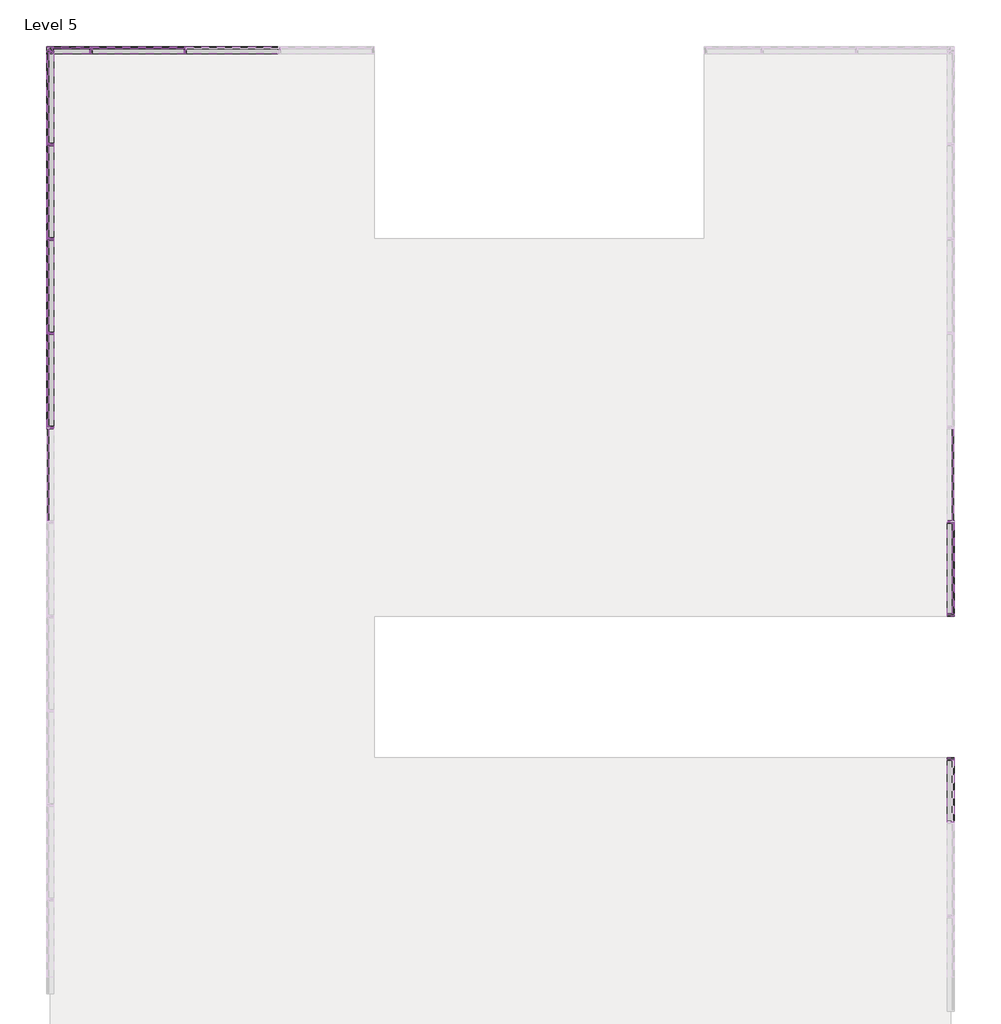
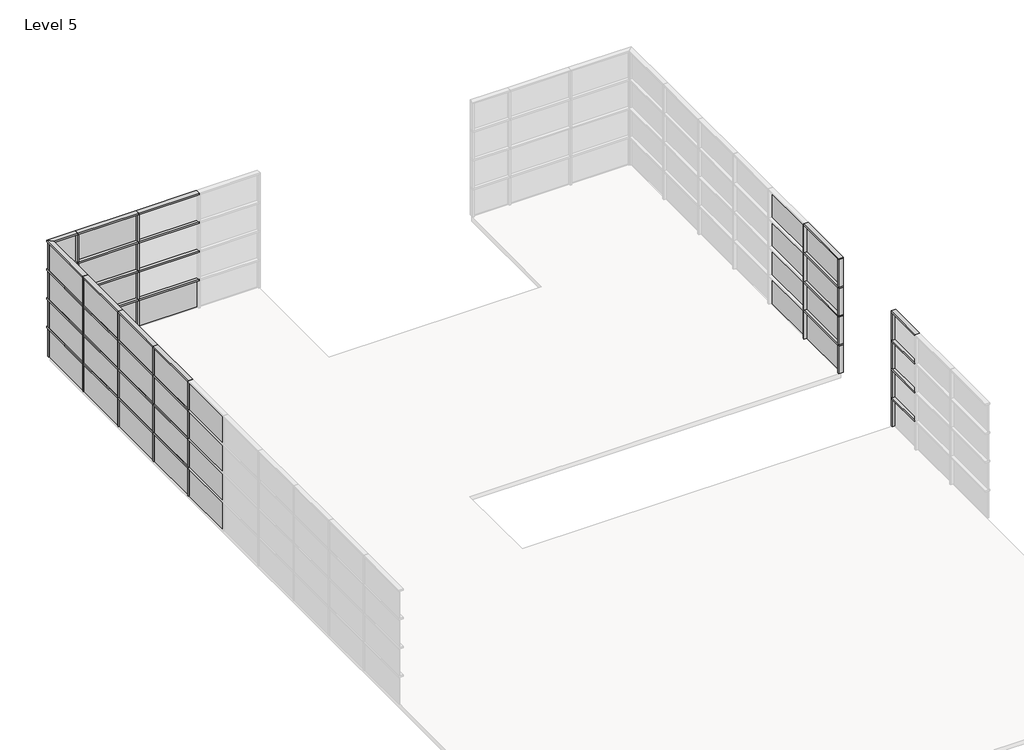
# One storey, part 4 of 5: 80 members, 37 plates.
"""IFC4 building model written with IfcOpenShell, lengths in millimetres."""

from ifc_helpers import new_model, si_unit, origin, place, context, project, spatial, transform, mapped, element, save
from components import rectangular_mullion_50_x_150mm_a053b0ca, rectangular_mullion_50_x_150mm_3a148f0f, rectangular_mullion_50_x_150mm_12a430f9, rectangular_mullion_50_x_150mm_c4a1d10e, rectangular_mullion_50_x_150mm_947845bb, rectangular_mullion_50_x_150mm_5fc4eb71, system_panel_glazed_751a585c, system_panel_glazed_08de6f5f, system_panel_glazed_3868a10e

model = new_model("IFC4")

# Units and contexts
model_context = context("Model", 3, world=origin())
ifc_project = project(units=[si_unit("LENGTHUNIT", "METRE", prefix="MILLI")], contexts=[model_context])

# Site, building, storey
site = spatial("IfcSite", under=ifc_project)
building = spatial("IfcBuilding", under=site)
storey = spatial("IfcBuildingStorey", under=building, Name="Level 5", Elevation=16000.0)

# Members
placement = place(None, origin())
rectangular_mullion_50_x_150mm_shape = rectangular_mullion_50_x_150mm_a053b0ca(model_context)
element("IfcMember", 1, ObjectType="Rectangular Mullion : 50 x 150mm", at=placement, inside=storey, context=model_context, shape_type="MappedRepresentation", body=[
    mapped(rectangular_mullion_50_x_150mm_shape, transform((-5587.173406, 6375.9839566, 16025.0), x_axis=(0.0, -1.0, 0.0), y_axis=(-1.0, 0.0, 0.0), z_axis=(0.0, 0.0, -1.0))),
])
element("IfcMember", 2, ObjectType="Rectangular Mullion : 50 x 150mm", at=placement, inside=storey, context=model_context, shape_type="MappedRepresentation", body=[
    mapped(rectangular_mullion_50_x_150mm_shape, transform((-5587.173406, 6375.9839566, 17025.0), x_axis=(0.0, -1.0, 0.0), y_axis=(-1.0, 0.0, 0.0), z_axis=(0.0, 0.0, -1.0))),
])
element("IfcMember", 3, ObjectType="Rectangular Mullion : 50 x 150mm", at=placement, inside=storey, context=model_context, shape_type="MappedRepresentation", body=[
    mapped(rectangular_mullion_50_x_150mm_shape, transform((-5587.173406, 6375.9839566, 18025.0), x_axis=(0.0, -1.0, 0.0), y_axis=(-1.0, 0.0, 0.0), z_axis=(0.0, 0.0, -1.0))),
])
element("IfcMember", 4, ObjectType="Rectangular Mullion : 50 x 150mm", at=placement, inside=storey, context=model_context, shape_type="MappedRepresentation", body=[
    mapped(rectangular_mullion_50_x_150mm_shape, transform((-5587.173406, 6375.9839566, 19025.0), x_axis=(0.0, -1.0, 0.0), y_axis=(-1.0, 0.0, 0.0), z_axis=(0.0, 0.0, -1.0))),
])
element("IfcMember", 5, ObjectType="Rectangular Mullion : 50 x 150mm", at=placement, inside=storey, context=model_context, shape_type="MappedRepresentation", body=[
    mapped(rectangular_mullion_50_x_150mm_shape, transform((-5587.173406, 4375.9839566, 16025.0), x_axis=(0.0, -1.0, 0.0), y_axis=(-1.0, 0.0, 0.0), z_axis=(0.0, 0.0, -1.0))),
])
element("IfcMember", 6, ObjectType="Rectangular Mullion : 50 x 150mm", at=placement, inside=storey, context=model_context, shape_type="MappedRepresentation", body=[
    mapped(rectangular_mullion_50_x_150mm_shape, transform((-5587.173406, 4375.9839566, 17025.0), x_axis=(0.0, -1.0, 0.0), y_axis=(-1.0, 0.0, 0.0), z_axis=(0.0, 0.0, -1.0))),
])
element("IfcMember", 7, ObjectType="Rectangular Mullion : 50 x 150mm", at=placement, inside=storey, context=model_context, shape_type="MappedRepresentation", body=[
    mapped(rectangular_mullion_50_x_150mm_shape, transform((-5587.173406, 4375.9839566, 18025.0), x_axis=(0.0, -1.0, 0.0), y_axis=(-1.0, 0.0, 0.0), z_axis=(0.0, 0.0, -1.0))),
])
element("IfcMember", 8, ObjectType="Rectangular Mullion : 50 x 150mm", at=placement, inside=storey, context=model_context, shape_type="MappedRepresentation", body=[
    mapped(rectangular_mullion_50_x_150mm_shape, transform((-5587.173406, 4375.9839566, 19025.0), x_axis=(0.0, -1.0, 0.0), y_axis=(-1.0, 0.0, 0.0), z_axis=(0.0, 0.0, -1.0))),
])
element("IfcMember", 9, ObjectType="Rectangular Mullion : 50 x 150mm", at=placement, inside=storey, context=model_context, shape_type="MappedRepresentation", body=[
    mapped(rectangular_mullion_50_x_150mm_shape, transform((-5587.173406, 2375.9839566, 16025.0), x_axis=(0.0, -1.0, 0.0), y_axis=(-1.0, 0.0, 0.0), z_axis=(0.0, 0.0, -1.0))),
])
element("IfcMember", 10, ObjectType="Rectangular Mullion : 50 x 150mm", at=placement, inside=storey, context=model_context, shape_type="MappedRepresentation", body=[
    mapped(rectangular_mullion_50_x_150mm_shape, transform((-5587.173406, 2375.9839566, 17025.0), x_axis=(0.0, -1.0, 0.0), y_axis=(-1.0, 0.0, 0.0), z_axis=(0.0, 0.0, -1.0))),
])
element("IfcMember", 11, ObjectType="Rectangular Mullion : 50 x 150mm", at=placement, inside=storey, context=model_context, shape_type="MappedRepresentation", body=[
    mapped(rectangular_mullion_50_x_150mm_shape, transform((-5587.173406, 2375.9839566, 18025.0), x_axis=(0.0, -1.0, 0.0), y_axis=(-1.0, 0.0, 0.0), z_axis=(0.0, 0.0, -1.0))),
])
element("IfcMember", 12, ObjectType="Rectangular Mullion : 50 x 150mm", at=placement, inside=storey, context=model_context, shape_type="MappedRepresentation", body=[
    mapped(rectangular_mullion_50_x_150mm_shape, transform((-5587.173406, 2375.9839566, 19025.0), x_axis=(0.0, -1.0, 0.0), y_axis=(-1.0, 0.0, 0.0), z_axis=(0.0, 0.0, -1.0))),
])
element("IfcMember", 13, ObjectType="Rectangular Mullion : 50 x 150mm", at=placement, inside=storey, context=model_context, shape_type="MappedRepresentation", body=[
    mapped(rectangular_mullion_50_x_150mm_shape, transform((-5587.173406, 375.9839566, 16025.0), x_axis=(0.0, -1.0, 0.0), y_axis=(-1.0, 0.0, 0.0), z_axis=(0.0, 0.0, -1.0))),
])
element("IfcMember", 14, ObjectType="Rectangular Mullion : 50 x 150mm", at=placement, inside=storey, context=model_context, shape_type="MappedRepresentation", body=[
    mapped(rectangular_mullion_50_x_150mm_shape, transform((-5587.173406, 375.9839566, 17025.0), x_axis=(0.0, -1.0, 0.0), y_axis=(-1.0, 0.0, 0.0), z_axis=(0.0, 0.0, -1.0))),
])
element("IfcMember", 15, ObjectType="Rectangular Mullion : 50 x 150mm", at=placement, inside=storey, context=model_context, shape_type="MappedRepresentation", body=[
    mapped(rectangular_mullion_50_x_150mm_shape, transform((-5587.173406, 375.9839566, 18025.0), x_axis=(0.0, -1.0, 0.0), y_axis=(-1.0, 0.0, 0.0), z_axis=(0.0, 0.0, -1.0))),
])
element("IfcMember", 16, ObjectType="Rectangular Mullion : 50 x 150mm", at=placement, inside=storey, context=model_context, shape_type="MappedRepresentation", body=[
    mapped(rectangular_mullion_50_x_150mm_shape, transform((-5587.173406, 375.9839566, 19025.0), x_axis=(0.0, -1.0, 0.0), y_axis=(-1.0, 0.0, 0.0), z_axis=(0.0, 0.0, -1.0))),
])
element("IfcMember", 17, ObjectType="Rectangular Mullion : 50 x 150mm", at=placement, inside=storey, context=model_context, shape_type="MappedRepresentation", body=[
    mapped(rectangular_mullion_50_x_150mm_shape, transform((-4721.580781, 8375.9839566, 16025.0), x_axis=(-1.0, 0.0, 0.0), y_axis=(0.0, 1.0, 0.0), z_axis=(0.0, 0.0, -0.9999999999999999))),
])
element("IfcMember", 18, ObjectType="Rectangular Mullion : 50 x 150mm", at=placement, inside=storey, context=model_context, shape_type="MappedRepresentation", body=[
    mapped(rectangular_mullion_50_x_150mm_shape, transform((-4721.580781, 8375.9839566, 17025.0), x_axis=(-1.0, 0.0, 0.0), y_axis=(0.0, 1.0, 0.0), z_axis=(0.0, 0.0, -1.0))),
])
element("IfcMember", 19, ObjectType="Rectangular Mullion : 50 x 150mm", at=placement, inside=storey, context=model_context, shape_type="MappedRepresentation", body=[
    mapped(rectangular_mullion_50_x_150mm_shape, transform((-4721.580781, 8375.9839566, 18025.0), x_axis=(-1.0, 0.0, 0.0), y_axis=(0.0, 1.0, 0.0), z_axis=(0.0, 0.0, -1.0))),
])
element("IfcMember", 20, ObjectType="Rectangular Mullion : 50 x 150mm", at=placement, inside=storey, context=model_context, shape_type="MappedRepresentation", body=[
    mapped(rectangular_mullion_50_x_150mm_shape, transform((-4721.580781, 8375.9839566, 19025.0), x_axis=(-1.0, 0.0, 0.0), y_axis=(0.0, 1.0, 0.0), z_axis=(0.0, 0.0, -1.0))),
])
element("IfcMember", 21, ObjectType="Rectangular Mullion : 50 x 150mm", at=placement, inside=storey, context=model_context, shape_type="MappedRepresentation", body=[
    mapped(rectangular_mullion_50_x_150mm_shape, transform((-2721.580781, 8375.9839566, 16025.0), x_axis=(-1.0, 0.0, 0.0), y_axis=(0.0, 1.0, 0.0), z_axis=(0.0, 0.0, -1.0))),
])
element("IfcMember", 22, ObjectType="Rectangular Mullion : 50 x 150mm", at=placement, inside=storey, context=model_context, shape_type="MappedRepresentation", body=[
    mapped(rectangular_mullion_50_x_150mm_shape, transform((-2721.580781, 8375.9839566, 17025.0), x_axis=(-1.0, 0.0, 0.0), y_axis=(0.0, 1.0, 0.0), z_axis=(0.0, 0.0, -1.0))),
])
element("IfcMember", 23, ObjectType="Rectangular Mullion : 50 x 150mm", at=placement, inside=storey, context=model_context, shape_type="MappedRepresentation", body=[
    mapped(rectangular_mullion_50_x_150mm_shape, transform((-2721.580781, 8375.9839566, 18025.0), x_axis=(-1.0, 0.0, 0.0), y_axis=(0.0, 1.0, 0.0), z_axis=(0.0, 0.0, -1.0))),
])
element("IfcMember", 24, ObjectType="Rectangular Mullion : 50 x 150mm", at=placement, inside=storey, context=model_context, shape_type="MappedRepresentation", body=[
    mapped(rectangular_mullion_50_x_150mm_shape, transform((-2721.580781, 8375.9839566, 19025.0), x_axis=(-1.0, 0.0, 0.0), y_axis=(0.0, 1.0, 0.0), z_axis=(0.0, 0.0, -1.0))),
])
element("IfcMember", 25, ObjectType="Rectangular Mullion : 50 x 150mm", at=placement, inside=storey, context=model_context, shape_type="MappedRepresentation", body=[
    mapped(rectangular_mullion_50_x_150mm_shape, transform((13503.2660975, -1624.0160434, 16025.0), x_axis=(0.0, 1.0, 0.0), y_axis=(1.0, 0.0, 0.0), z_axis=(0.0, 0.0, -1.0))),
])
element("IfcMember", 26, ObjectType="Rectangular Mullion : 50 x 150mm", at=placement, inside=storey, context=model_context, shape_type="MappedRepresentation", body=[
    mapped(rectangular_mullion_50_x_150mm_shape, transform((13503.2660975, -1624.0160434, 17025.0), x_axis=(0.0, 1.0, 0.0), y_axis=(1.0, 0.0, 0.0), z_axis=(0.0, 0.0, -1.0))),
])
element("IfcMember", 27, ObjectType="Rectangular Mullion : 50 x 150mm", at=placement, inside=storey, context=model_context, shape_type="MappedRepresentation", body=[
    mapped(rectangular_mullion_50_x_150mm_shape, transform((13503.2660975, -1624.0160434, 18025.0), x_axis=(0.0, 1.0, 0.0), y_axis=(1.0, 0.0, 0.0), z_axis=(0.0, 0.0, -1.0))),
])
element("IfcMember", 28, ObjectType="Rectangular Mullion : 50 x 150mm", at=placement, inside=storey, context=model_context, shape_type="MappedRepresentation", body=[
    mapped(rectangular_mullion_50_x_150mm_shape, transform((13503.2660975, -1624.0160434, 19025.0), x_axis=(0.0, 1.0, 0.0), y_axis=(1.0, 0.0, 0.0), z_axis=(0.0, 0.0, -1.0))),
])
rectangular_mullion_50_x_150mm_2_shape = rectangular_mullion_50_x_150mm_3a148f0f(model_context)
element("IfcMember", 29, ObjectType="Rectangular Mullion : 50 x 150mm", at=placement, inside=storey, context=model_context, shape_type="MappedRepresentation", body=[
    mapped(rectangular_mullion_50_x_150mm_2_shape, transform((13503.2660975, -1624.0160434, 17000.0), x_axis=(0.0, 0.0, 1.0), y_axis=(1.0, 0.0, 0.0), z_axis=(0.0, 0.9999999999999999, 0.0))),
])
element("IfcMember", 30, ObjectType="Rectangular Mullion : 50 x 150mm", at=placement, inside=storey, context=model_context, shape_type="MappedRepresentation", body=[
    mapped(rectangular_mullion_50_x_150mm_2_shape, transform((13503.2660975, -1624.0160434, 18000.0), x_axis=(0.0, 0.0, 1.0), y_axis=(1.0, 0.0, 0.0), z_axis=(0.0, 0.9999999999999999, 0.0))),
])
element("IfcMember", 31, ObjectType="Rectangular Mullion : 50 x 150mm", at=placement, inside=storey, context=model_context, shape_type="MappedRepresentation", body=[
    mapped(rectangular_mullion_50_x_150mm_2_shape, transform((13503.2660975, -1624.0160434, 19000.0), x_axis=(0.0, 0.0, 1.0), y_axis=(1.0, 0.0, 0.0), z_axis=(0.0, 0.9999999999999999, 0.0))),
])
element("IfcMember", 32, ObjectType="Rectangular Mullion : 50 x 150mm", at=placement, inside=storey, context=model_context, shape_type="MappedRepresentation", body=[
    mapped(rectangular_mullion_50_x_150mm_2_shape, transform((13503.2660975, -1624.0160434, 20000.0), x_axis=(0.0, 0.0, 1.0), y_axis=(1.0, 0.0, 0.0), z_axis=(0.0, 0.9999999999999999, 0.0))),
])
element("IfcMember", 33, ObjectType="Rectangular Mullion : 50 x 150mm", at=placement, inside=storey, context=model_context, shape_type="MappedRepresentation", body=[
    mapped(rectangular_mullion_50_x_150mm_2_shape, transform((-5587.173406, 4375.9839566, 17000.0), x_axis=(0.0, 0.0, 1.0), y_axis=(-1.0, 0.0, 0.0), z_axis=(0.0, -1.0, 0.0))),
])
element("IfcMember", 34, ObjectType="Rectangular Mullion : 50 x 150mm", at=placement, inside=storey, context=model_context, shape_type="MappedRepresentation", body=[
    mapped(rectangular_mullion_50_x_150mm_2_shape, transform((-5587.173406, 2375.9839566, 17000.0), x_axis=(0.0, 0.0, 1.0), y_axis=(-1.0, 0.0, 0.0), z_axis=(0.0, -1.0, 0.0))),
])
element("IfcMember", 35, ObjectType="Rectangular Mullion : 50 x 150mm", at=placement, inside=storey, context=model_context, shape_type="MappedRepresentation", body=[
    mapped(rectangular_mullion_50_x_150mm_2_shape, transform((-5587.173406, 375.9839566, 17000.0), x_axis=(0.0, 0.0, 1.0), y_axis=(-1.0, 0.0, 0.0), z_axis=(0.0, -1.0, 0.0))),
])
element("IfcMember", 36, ObjectType="Rectangular Mullion : 50 x 150mm", at=placement, inside=storey, context=model_context, shape_type="MappedRepresentation", body=[
    mapped(rectangular_mullion_50_x_150mm_2_shape, transform((-5587.173406, 4375.9839566, 18000.0), x_axis=(0.0, 0.0, 1.0), y_axis=(-1.0, 0.0, 0.0), z_axis=(0.0, -1.0, 0.0))),
])
element("IfcMember", 37, ObjectType="Rectangular Mullion : 50 x 150mm", at=placement, inside=storey, context=model_context, shape_type="MappedRepresentation", body=[
    mapped(rectangular_mullion_50_x_150mm_2_shape, transform((-5587.173406, 2375.9839566, 18000.0), x_axis=(0.0, 0.0, 1.0), y_axis=(-1.0, 0.0, 0.0), z_axis=(0.0, -1.0, 0.0))),
])
element("IfcMember", 38, ObjectType="Rectangular Mullion : 50 x 150mm", at=placement, inside=storey, context=model_context, shape_type="MappedRepresentation", body=[
    mapped(rectangular_mullion_50_x_150mm_2_shape, transform((-5587.173406, 375.9839566, 18000.0), x_axis=(0.0, 0.0, 1.0), y_axis=(-1.0, 0.0, 0.0), z_axis=(0.0, -1.0, 0.0))),
])
element("IfcMember", 39, ObjectType="Rectangular Mullion : 50 x 150mm", at=placement, inside=storey, context=model_context, shape_type="MappedRepresentation", body=[
    mapped(rectangular_mullion_50_x_150mm_2_shape, transform((-5587.173406, 4375.9839566, 19000.0), x_axis=(0.0, 0.0, 1.0), y_axis=(-1.0, 0.0, 0.0), z_axis=(0.0, -1.0, 0.0))),
])
element("IfcMember", 40, ObjectType="Rectangular Mullion : 50 x 150mm", at=placement, inside=storey, context=model_context, shape_type="MappedRepresentation", body=[
    mapped(rectangular_mullion_50_x_150mm_2_shape, transform((-5587.173406, 2375.9839566, 19000.0), x_axis=(0.0, 0.0, 1.0), y_axis=(-1.0, 0.0, 0.0), z_axis=(0.0, -1.0, 0.0))),
])
element("IfcMember", 41, ObjectType="Rectangular Mullion : 50 x 150mm", at=placement, inside=storey, context=model_context, shape_type="MappedRepresentation", body=[
    mapped(rectangular_mullion_50_x_150mm_2_shape, transform((-5587.173406, 375.9839566, 19000.0), x_axis=(0.0, 0.0, 1.0), y_axis=(-1.0, 0.0, 0.0), z_axis=(0.0, -1.0, 0.0))),
])
element("IfcMember", 42, ObjectType="Rectangular Mullion : 50 x 150mm", at=placement, inside=storey, context=model_context, shape_type="MappedRepresentation", body=[
    mapped(rectangular_mullion_50_x_150mm_2_shape, transform((-5587.173406, 4375.9839566, 20000.0), x_axis=(0.0, 0.0, 1.0), y_axis=(-1.0, 0.0, 0.0), z_axis=(0.0, -1.0, 0.0))),
])
element("IfcMember", 43, ObjectType="Rectangular Mullion : 50 x 150mm", at=placement, inside=storey, context=model_context, shape_type="MappedRepresentation", body=[
    mapped(rectangular_mullion_50_x_150mm_2_shape, transform((-5587.173406, 2375.9839566, 20000.0), x_axis=(0.0, 0.0, 1.0), y_axis=(-1.0, 0.0, 0.0), z_axis=(0.0, -1.0, 0.0))),
])
element("IfcMember", 44, ObjectType="Rectangular Mullion : 50 x 150mm", at=placement, inside=storey, context=model_context, shape_type="MappedRepresentation", body=[
    mapped(rectangular_mullion_50_x_150mm_2_shape, transform((-5587.173406, 375.9839566, 20000.0), x_axis=(0.0, 0.0, 1.0), y_axis=(-1.0, 0.0, 0.0), z_axis=(0.0, -1.0, 0.0))),
])
element("IfcMember", 45, ObjectType="Rectangular Mullion : 50 x 150mm", at=placement, inside=storey, context=model_context, shape_type="MappedRepresentation", body=[
    mapped(rectangular_mullion_50_x_150mm_2_shape, transform((-2721.580781, 8375.9839566, 17000.0), x_axis=(0.0, 0.0, 1.0), y_axis=(0.0, 1.0, 0.0), z_axis=(-1.0, 0.0, 0.0))),
])
element("IfcMember", 46, ObjectType="Rectangular Mullion : 50 x 150mm", at=placement, inside=storey, context=model_context, shape_type="MappedRepresentation", body=[
    mapped(rectangular_mullion_50_x_150mm_2_shape, transform((-4721.580781, 8375.9839566, 17000.0), x_axis=(0.0, 0.0, 1.0), y_axis=(0.0, 1.0, 0.0), z_axis=(-1.0, 0.0, 0.0))),
])
element("IfcMember", 47, ObjectType="Rectangular Mullion : 50 x 150mm", at=placement, inside=storey, context=model_context, shape_type="MappedRepresentation", body=[
    mapped(rectangular_mullion_50_x_150mm_2_shape, transform((-2721.580781, 8375.9839566, 18000.0), x_axis=(0.0, 0.0, 1.0), y_axis=(0.0, 1.0, 0.0), z_axis=(-1.0, 0.0, 0.0))),
])
element("IfcMember", 48, ObjectType="Rectangular Mullion : 50 x 150mm", at=placement, inside=storey, context=model_context, shape_type="MappedRepresentation", body=[
    mapped(rectangular_mullion_50_x_150mm_2_shape, transform((-4721.580781, 8375.9839566, 18000.0), x_axis=(0.0, 0.0, 1.0), y_axis=(0.0, 1.0, 0.0), z_axis=(-1.0, 0.0, 0.0))),
])
element("IfcMember", 49, ObjectType="Rectangular Mullion : 50 x 150mm", at=placement, inside=storey, context=model_context, shape_type="MappedRepresentation", body=[
    mapped(rectangular_mullion_50_x_150mm_2_shape, transform((-2721.580781, 8375.9839566, 19000.0), x_axis=(0.0, 0.0, 1.0), y_axis=(0.0, 1.0, 0.0), z_axis=(-1.0, 0.0, 0.0))),
])
element("IfcMember", 50, ObjectType="Rectangular Mullion : 50 x 150mm", at=placement, inside=storey, context=model_context, shape_type="MappedRepresentation", body=[
    mapped(rectangular_mullion_50_x_150mm_2_shape, transform((-4721.580781, 8375.9839566, 19000.0), x_axis=(0.0, 0.0, 1.0), y_axis=(0.0, 1.0, 0.0), z_axis=(-1.0, 0.0, 0.0))),
])
element("IfcMember", 51, ObjectType="Rectangular Mullion : 50 x 150mm", at=placement, inside=storey, context=model_context, shape_type="MappedRepresentation", body=[
    mapped(rectangular_mullion_50_x_150mm_2_shape, transform((-2721.580781, 8375.9839566, 20000.0), x_axis=(0.0, 0.0, 1.0), y_axis=(0.0, 1.0, 0.0), z_axis=(-1.0, 0.0, 0.0))),
])
element("IfcMember", 52, ObjectType="Rectangular Mullion : 50 x 150mm", at=placement, inside=storey, context=model_context, shape_type="MappedRepresentation", body=[
    mapped(rectangular_mullion_50_x_150mm_2_shape, transform((-4721.580781, 8375.9839566, 20000.0), x_axis=(0.0, 0.0, 1.0), y_axis=(0.0, 1.0, 0.0), z_axis=(-1.0, 0.0, 0.0))),
])
rectangular_mullion_50_x_150mm_3_shape = rectangular_mullion_50_x_150mm_12a430f9(model_context)
element("IfcMember", 53, ObjectType="Rectangular Mullion : 50 x 150mm", at=placement, inside=storey, context=model_context, shape_type="MappedRepresentation", body=[
    mapped(rectangular_mullion_50_x_150mm_3_shape, transform((-5587.173406, 8375.9839566, 16975.0), x_axis=(0.0, 1.0, 0.0), y_axis=(-1.0, 0.0, 0.0), z_axis=(0.0, 0.0, 1.0))),
])
element("IfcMember", 54, ObjectType="Rectangular Mullion : 50 x 150mm", at=placement, inside=storey, context=model_context, shape_type="MappedRepresentation", body=[
    mapped(rectangular_mullion_50_x_150mm_3_shape, transform((-5587.173406, 8375.9839566, 17975.0), x_axis=(0.0, 1.0, 0.0), y_axis=(-1.0, 0.0, 0.0), z_axis=(0.0, 0.0, 1.0))),
])
element("IfcMember", 55, ObjectType="Rectangular Mullion : 50 x 150mm", at=placement, inside=storey, context=model_context, shape_type="MappedRepresentation", body=[
    mapped(rectangular_mullion_50_x_150mm_3_shape, transform((-5587.173406, 8375.9839566, 18975.0), x_axis=(0.0, 1.0, 0.0), y_axis=(-1.0, 0.0, 0.0), z_axis=(0.0, 0.0, 1.0))),
])
element("IfcMember", 56, ObjectType="Rectangular Mullion : 50 x 150mm", at=placement, inside=storey, context=model_context, shape_type="MappedRepresentation", body=[
    mapped(rectangular_mullion_50_x_150mm_3_shape, transform((-5587.173406, 8375.9839566, 19975.0), x_axis=(0.0, 1.0, 0.0), y_axis=(-1.0, 0.0, 0.0), z_axis=(0.0, 0.0, 1.0))),
])
element("IfcMember", 57, ObjectType="Rectangular Mullion : 50 x 150mm", at=placement, inside=storey, context=model_context, shape_type="MappedRepresentation", body=[
    mapped(rectangular_mullion_50_x_150mm_3_shape, transform((13503.2660975, -3624.0160434, 16975.0), x_axis=(0.0, -1.0, 0.0), y_axis=(1.0, 0.0, 0.0), z_axis=(0.0, 0.0, 1.0))),
])
element("IfcMember", 58, ObjectType="Rectangular Mullion : 50 x 150mm", at=placement, inside=storey, context=model_context, shape_type="MappedRepresentation", body=[
    mapped(rectangular_mullion_50_x_150mm_3_shape, transform((13503.2660975, -3624.0160434, 17975.0), x_axis=(0.0, -1.0, 0.0), y_axis=(1.0, 0.0, 0.0), z_axis=(0.0, 0.0, 1.0))),
])
element("IfcMember", 59, ObjectType="Rectangular Mullion : 50 x 150mm", at=placement, inside=storey, context=model_context, shape_type="MappedRepresentation", body=[
    mapped(rectangular_mullion_50_x_150mm_3_shape, transform((13503.2660975, -3624.0160434, 18975.0), x_axis=(0.0, -1.0, 0.0), y_axis=(1.0, 0.0, 0.0), z_axis=(0.0, 0.0, 1.0))),
])
element("IfcMember", 60, ObjectType="Rectangular Mullion : 50 x 150mm", at=placement, inside=storey, context=model_context, shape_type="MappedRepresentation", body=[
    mapped(rectangular_mullion_50_x_150mm_3_shape, transform((13503.2660975, -3624.0160434, 19975.0), x_axis=(0.0, -1.0, 0.0), y_axis=(1.0, 0.0, 0.0), z_axis=(0.0, 0.0, 1.0))),
])
element("IfcMember", 61, ObjectType="Rectangular Mullion : 50 x 150mm", at=placement, inside=storey, context=model_context, shape_type="MappedRepresentation", body=[
    mapped(rectangular_mullion_50_x_150mm_3_shape, transform((-5587.173406, 8375.9839566, 16025.0), x_axis=(-1.0, 0.0, 0.0), y_axis=(0.0, 1.0, 0.0), z_axis=(0.0, 0.0, -1.0))),
])
element("IfcMember", 62, ObjectType="Rectangular Mullion : 50 x 150mm", at=placement, inside=storey, context=model_context, shape_type="MappedRepresentation", body=[
    mapped(rectangular_mullion_50_x_150mm_3_shape, transform((-5587.173406, 8375.9839566, 17025.0), x_axis=(-1.0, 0.0, 0.0), y_axis=(0.0, 1.0, 0.0), z_axis=(0.0, 0.0, -1.0))),
])
element("IfcMember", 63, ObjectType="Rectangular Mullion : 50 x 150mm", at=placement, inside=storey, context=model_context, shape_type="MappedRepresentation", body=[
    mapped(rectangular_mullion_50_x_150mm_3_shape, transform((-5587.173406, 8375.9839566, 18025.0), x_axis=(-1.0, 0.0, 0.0), y_axis=(0.0, 1.0, 0.0), z_axis=(0.0, 0.0, -1.0))),
])
element("IfcMember", 64, ObjectType="Rectangular Mullion : 50 x 150mm", at=placement, inside=storey, context=model_context, shape_type="MappedRepresentation", body=[
    mapped(rectangular_mullion_50_x_150mm_3_shape, transform((-5587.173406, 8375.9839566, 19025.0), x_axis=(-1.0, 0.0, 0.0), y_axis=(0.0, 1.0, 0.0), z_axis=(0.0, 0.0, -1.0))),
])
element("IfcMember", 65, ObjectType="Rectangular Mullion : 50 x 150mm", at=placement, inside=storey, context=model_context, shape_type="MappedRepresentation", body=[
    mapped(rectangular_mullion_50_x_150mm_3_shape, transform((13503.2660975, -6624.0160434, 16025.0), x_axis=(0.0, 1.0, 0.0), y_axis=(1.0, 0.0, 0.0), z_axis=(0.0, 0.0, -1.0))),
])
element("IfcMember", 66, ObjectType="Rectangular Mullion : 50 x 150mm", at=placement, inside=storey, context=model_context, shape_type="MappedRepresentation", body=[
    mapped(rectangular_mullion_50_x_150mm_3_shape, transform((13503.2660975, -6624.0160434, 17025.0), x_axis=(0.0, 1.0, 0.0), y_axis=(1.0, 0.0, 0.0), z_axis=(0.0, 0.0, -1.0))),
])
element("IfcMember", 67, ObjectType="Rectangular Mullion : 50 x 150mm", at=placement, inside=storey, context=model_context, shape_type="MappedRepresentation", body=[
    mapped(rectangular_mullion_50_x_150mm_3_shape, transform((13503.2660975, -6624.0160434, 18025.0), x_axis=(0.0, 1.0, 0.0), y_axis=(1.0, 0.0, 0.0), z_axis=(0.0, 0.0, -1.0))),
])
element("IfcMember", 68, ObjectType="Rectangular Mullion : 50 x 150mm", at=placement, inside=storey, context=model_context, shape_type="MappedRepresentation", body=[
    mapped(rectangular_mullion_50_x_150mm_3_shape, transform((13503.2660975, -6624.0160434, 19025.0), x_axis=(0.0, 1.0, 0.0), y_axis=(1.0, 0.0, 0.0), z_axis=(0.0, 0.0, -1.0))),
])
rectangular_mullion_50_x_150mm_4_shape = rectangular_mullion_50_x_150mm_c4a1d10e(model_context)
element("IfcMember", 69, ObjectType="Rectangular Mullion : 50 x 150mm", at=placement, inside=storey, context=model_context, shape_type="MappedRepresentation", body=[
    mapped(rectangular_mullion_50_x_150mm_4_shape, transform((-5587.173406, 8375.9839566, 17000.0), x_axis=(0.0, 0.0, 1.0), y_axis=(0.0, 1.0, 0.0), z_axis=(-1.0, 0.0, 0.0))),
])
element("IfcMember", 70, ObjectType="Rectangular Mullion : 50 x 150mm", at=placement, inside=storey, context=model_context, shape_type="MappedRepresentation", body=[
    mapped(rectangular_mullion_50_x_150mm_4_shape, transform((-5587.173406, 8375.9839566, 18000.0), x_axis=(0.0, 0.0, 1.0), y_axis=(0.0, 1.0, 0.0), z_axis=(-1.0, 0.0, 0.0))),
])
element("IfcMember", 71, ObjectType="Rectangular Mullion : 50 x 150mm", at=placement, inside=storey, context=model_context, shape_type="MappedRepresentation", body=[
    mapped(rectangular_mullion_50_x_150mm_4_shape, transform((-5587.173406, 8375.9839566, 19000.0), x_axis=(0.0, 0.0, 1.0), y_axis=(0.0, 1.0, 0.0), z_axis=(-1.0, 0.0, 0.0))),
])
element("IfcMember", 72, ObjectType="Rectangular Mullion : 50 x 150mm", at=placement, inside=storey, context=model_context, shape_type="MappedRepresentation", body=[
    mapped(rectangular_mullion_50_x_150mm_4_shape, transform((-5587.173406, 8375.9839566, 20000.0), x_axis=(0.0, 0.0, 1.0), y_axis=(0.0, 1.0, 0.0), z_axis=(-1.0, 0.0, 0.0))),
])
rectangular_mullion_50_x_150mm_5_shape = rectangular_mullion_50_x_150mm_947845bb(model_context)
element("IfcMember", 73, ObjectType="Rectangular Mullion : 50 x 150mm", at=placement, inside=storey, context=model_context, shape_type="MappedRepresentation", body=[
    mapped(rectangular_mullion_50_x_150mm_5_shape, transform((-5587.173406, 6375.9839566, 17000.0), x_axis=(0.0, 0.0, 1.0), y_axis=(-1.0, 0.0, 0.0), z_axis=(0.0, -1.0, 0.0))),
])
element("IfcMember", 74, ObjectType="Rectangular Mullion : 50 x 150mm", at=placement, inside=storey, context=model_context, shape_type="MappedRepresentation", body=[
    mapped(rectangular_mullion_50_x_150mm_5_shape, transform((-5587.173406, 6375.9839566, 18000.0), x_axis=(0.0, 0.0, 1.0), y_axis=(-1.0, 0.0, 0.0), z_axis=(0.0, -1.0, 0.0))),
])
element("IfcMember", 75, ObjectType="Rectangular Mullion : 50 x 150mm", at=placement, inside=storey, context=model_context, shape_type="MappedRepresentation", body=[
    mapped(rectangular_mullion_50_x_150mm_5_shape, transform((-5587.173406, 6375.9839566, 19000.0), x_axis=(0.0, 0.0, 1.0), y_axis=(-1.0, 0.0, 0.0), z_axis=(0.0, -1.0, 0.0))),
])
element("IfcMember", 76, ObjectType="Rectangular Mullion : 50 x 150mm", at=placement, inside=storey, context=model_context, shape_type="MappedRepresentation", body=[
    mapped(rectangular_mullion_50_x_150mm_5_shape, transform((-5587.173406, 6375.9839566, 20000.0), x_axis=(0.0, 0.0, 1.0), y_axis=(-1.0, 0.0, 0.0), z_axis=(0.0, -1.0, 0.0))),
])
rectangular_mullion_50_x_150mm_6_shape = rectangular_mullion_50_x_150mm_5fc4eb71(model_context)
element("IfcMember", 77, ObjectType="Rectangular Mullion : 50 x 150mm", at=placement, inside=storey, context=model_context, shape_type="MappedRepresentation", body=[
    mapped(rectangular_mullion_50_x_150mm_6_shape, transform((13503.2660975, -6624.0160434, 17000.0), x_axis=(0.0, 0.0, 1.0), y_axis=(1.0, 0.0, 0.0), z_axis=(0.0, 1.0, 0.0))),
])
element("IfcMember", 78, ObjectType="Rectangular Mullion : 50 x 150mm", at=placement, inside=storey, context=model_context, shape_type="MappedRepresentation", body=[
    mapped(rectangular_mullion_50_x_150mm_6_shape, transform((13503.2660975, -6624.0160434, 18000.0), x_axis=(0.0, 0.0, 1.0), y_axis=(1.0, 0.0, 0.0), z_axis=(0.0, 1.0, 0.0))),
])
element("IfcMember", 79, ObjectType="Rectangular Mullion : 50 x 150mm", at=placement, inside=storey, context=model_context, shape_type="MappedRepresentation", body=[
    mapped(rectangular_mullion_50_x_150mm_6_shape, transform((13503.2660975, -6624.0160434, 19000.0), x_axis=(0.0, 0.0, 1.0), y_axis=(1.0, 0.0, 0.0), z_axis=(0.0, 1.0, 0.0))),
])
element("IfcMember", 80, ObjectType="Rectangular Mullion : 50 x 150mm", at=placement, inside=storey, context=model_context, shape_type="MappedRepresentation", body=[
    mapped(rectangular_mullion_50_x_150mm_6_shape, transform((13503.2660975, -6624.0160434, 20000.0), x_axis=(0.0, 0.0, 1.0), y_axis=(1.0, 0.0, 0.0), z_axis=(0.0, 1.0, 0.0))),
])

# Plates
system_panel_glazed_shape = system_panel_glazed_751a585c(model_context)
element("IfcPlate", 81, ObjectType="System Panel : Glazed", at=placement, inside=storey, context=model_context, shape_type="MappedRepresentation", body=[
    mapped(system_panel_glazed_shape, transform((-5587.173406, 8325.9839566, 16500.0), x_axis=(0.0, 0.0, 1.0), y_axis=(-1.0, 0.0, 0.0), z_axis=(0.0, -1.0, 0.0))),
])
element("IfcPlate", 82, ObjectType="System Panel : Glazed", at=placement, inside=storey, context=model_context, shape_type="MappedRepresentation", body=[
    mapped(system_panel_glazed_shape, transform((-5587.173406, 8325.9839566, 17500.0), x_axis=(0.0, 0.0, 1.0), y_axis=(-1.0, 0.0, 0.0), z_axis=(0.0, -1.0, 0.0))),
])
element("IfcPlate", 83, ObjectType="System Panel : Glazed", at=placement, inside=storey, context=model_context, shape_type="MappedRepresentation", body=[
    mapped(system_panel_glazed_shape, transform((-5587.173406, 8325.9839566, 18500.0), x_axis=(0.0, 0.0, 1.0), y_axis=(-1.0, 0.0, 0.0), z_axis=(0.0, -1.0, 0.0))),
])
element("IfcPlate", 84, ObjectType="System Panel : Glazed", at=placement, inside=storey, context=model_context, shape_type="MappedRepresentation", body=[
    mapped(system_panel_glazed_shape, transform((-5587.173406, 8325.9839566, 19500.0), x_axis=(0.0, 0.0, 1.0), y_axis=(-1.0, 0.0, 0.0), z_axis=(0.0, -1.0, 0.0))),
])
element("IfcPlate", 85, ObjectType="System Panel : Glazed", at=placement, inside=storey, context=model_context, shape_type="MappedRepresentation", body=[
    mapped(system_panel_glazed_shape, transform((13503.2660975, -3574.0160434, 16500.0), x_axis=(0.0, 0.0, 1.0), y_axis=(1.0, 0.0, 0.0), z_axis=(0.0, 1.0, 0.0))),
])
element("IfcPlate", 86, ObjectType="System Panel : Glazed", at=placement, inside=storey, context=model_context, shape_type="MappedRepresentation", body=[
    mapped(system_panel_glazed_shape, transform((13503.2660975, -3574.0160434, 17500.0), x_axis=(0.0, 0.0, 1.0), y_axis=(1.0, 0.0, 0.0), z_axis=(0.0, 1.0, 0.0))),
])
element("IfcPlate", 87, ObjectType="System Panel : Glazed", at=placement, inside=storey, context=model_context, shape_type="MappedRepresentation", body=[
    mapped(system_panel_glazed_shape, transform((13503.2660975, -3574.0160434, 18500.0), x_axis=(0.0, 0.0, 1.0), y_axis=(1.0, 0.0, 0.0), z_axis=(0.0, 1.0, 0.0))),
])
element("IfcPlate", 88, ObjectType="System Panel : Glazed", at=placement, inside=storey, context=model_context, shape_type="MappedRepresentation", body=[
    mapped(system_panel_glazed_shape, transform((13503.2660975, -3574.0160434, 19500.0), x_axis=(0.0, 0.0, 1.0), y_axis=(1.0, 0.0, 0.0), z_axis=(0.0, 1.0, 0.0))),
])
system_panel_glazed_2_shape = system_panel_glazed_08de6f5f(model_context)
element("IfcPlate", 89, ObjectType="System Panel : Glazed", at=placement, inside=storey, context=model_context, shape_type="MappedRepresentation", body=[
    mapped(system_panel_glazed_2_shape, transform((-5587.173406, 6350.9839566, 16500.0), x_axis=(0.0, 0.0, 1.0), y_axis=(-1.0, 0.0, 0.0), z_axis=(0.0, -1.0, 0.0))),
])
element("IfcPlate", 90, ObjectType="System Panel : Glazed", at=placement, inside=storey, context=model_context, shape_type="MappedRepresentation", body=[
    mapped(system_panel_glazed_2_shape, transform((-5587.173406, 4350.9839566, 16500.0), x_axis=(0.0, 0.0, 1.0), y_axis=(-1.0, 0.0, 0.0), z_axis=(0.0, -1.0, 0.0))),
])
element("IfcPlate", 91, ObjectType="System Panel : Glazed", at=placement, inside=storey, context=model_context, shape_type="MappedRepresentation", body=[
    mapped(system_panel_glazed_2_shape, transform((-5587.173406, 2350.9839566, 16500.0), x_axis=(0.0, 0.0, 1.0), y_axis=(-1.0, 0.0, 0.0), z_axis=(0.0, -1.0, 0.0))),
])
element("IfcPlate", 92, ObjectType="System Panel : Glazed", at=placement, inside=storey, context=model_context, shape_type="MappedRepresentation", body=[
    mapped(system_panel_glazed_2_shape, transform((-5587.173406, 350.9839566, 16500.0), x_axis=(0.0, 0.0, 1.0), y_axis=(-1.0, 0.0, 0.0), z_axis=(0.0, -1.0, 0.0))),
])
element("IfcPlate", 93, ObjectType="System Panel : Glazed", at=placement, inside=storey, context=model_context, shape_type="MappedRepresentation", body=[
    mapped(system_panel_glazed_2_shape, transform((-5587.173406, 6350.9839566, 17500.0), x_axis=(0.0, 0.0, 1.0), y_axis=(-1.0, 0.0, 0.0), z_axis=(0.0, -1.0, 0.0))),
])
element("IfcPlate", 94, ObjectType="System Panel : Glazed", at=placement, inside=storey, context=model_context, shape_type="MappedRepresentation", body=[
    mapped(system_panel_glazed_2_shape, transform((-5587.173406, 4350.9839566, 17500.0), x_axis=(0.0, 0.0, 1.0), y_axis=(-1.0, 0.0, 0.0), z_axis=(0.0, -1.0, 0.0))),
])
element("IfcPlate", 95, ObjectType="System Panel : Glazed", at=placement, inside=storey, context=model_context, shape_type="MappedRepresentation", body=[
    mapped(system_panel_glazed_2_shape, transform((-5587.173406, 2350.9839566, 17500.0), x_axis=(0.0, 0.0, 1.0), y_axis=(-1.0, 0.0, 0.0), z_axis=(0.0, -1.0, 0.0))),
])
element("IfcPlate", 96, ObjectType="System Panel : Glazed", at=placement, inside=storey, context=model_context, shape_type="MappedRepresentation", body=[
    mapped(system_panel_glazed_2_shape, transform((-5587.173406, 350.9839566, 17500.0), x_axis=(0.0, 0.0, 1.0), y_axis=(-1.0, 0.0, 0.0), z_axis=(0.0, -1.0, 0.0))),
])
element("IfcPlate", 97, ObjectType="System Panel : Glazed", at=placement, inside=storey, context=model_context, shape_type="MappedRepresentation", body=[
    mapped(system_panel_glazed_2_shape, transform((-5587.173406, 6350.9839566, 18500.0), x_axis=(0.0, 0.0, 1.0), y_axis=(-1.0, 0.0, 0.0), z_axis=(0.0, -1.0, 0.0))),
])
element("IfcPlate", 98, ObjectType="System Panel : Glazed", at=placement, inside=storey, context=model_context, shape_type="MappedRepresentation", body=[
    mapped(system_panel_glazed_2_shape, transform((-5587.173406, 4350.9839566, 18500.0), x_axis=(0.0, 0.0, 1.0), y_axis=(-1.0, 0.0, 0.0), z_axis=(0.0, -1.0, 0.0))),
])
element("IfcPlate", 99, ObjectType="System Panel : Glazed", at=placement, inside=storey, context=model_context, shape_type="MappedRepresentation", body=[
    mapped(system_panel_glazed_2_shape, transform((-5587.173406, 2350.9839566, 18500.0), x_axis=(0.0, 0.0, 1.0), y_axis=(-1.0, 0.0, 0.0), z_axis=(0.0, -1.0, 0.0))),
])
element("IfcPlate", 100, ObjectType="System Panel : Glazed", at=placement, inside=storey, context=model_context, shape_type="MappedRepresentation", body=[
    mapped(system_panel_glazed_2_shape, transform((-5587.173406, 350.9839566, 18500.0), x_axis=(0.0, 0.0, 1.0), y_axis=(-1.0, 0.0, 0.0), z_axis=(0.0, -1.0, 0.0))),
])
element("IfcPlate", 101, ObjectType="System Panel : Glazed", at=placement, inside=storey, context=model_context, shape_type="MappedRepresentation", body=[
    mapped(system_panel_glazed_2_shape, transform((-5587.173406, 6350.9839566, 19500.0), x_axis=(0.0, 0.0, 1.0), y_axis=(-1.0, 0.0, 0.0), z_axis=(0.0, -1.0, 0.0))),
])
element("IfcPlate", 102, ObjectType="System Panel : Glazed", at=placement, inside=storey, context=model_context, shape_type="MappedRepresentation", body=[
    mapped(system_panel_glazed_2_shape, transform((-5587.173406, 4350.9839566, 19500.0), x_axis=(0.0, 0.0, 1.0), y_axis=(-1.0, 0.0, 0.0), z_axis=(0.0, -1.0, 0.0))),
])
element("IfcPlate", 103, ObjectType="System Panel : Glazed", at=placement, inside=storey, context=model_context, shape_type="MappedRepresentation", body=[
    mapped(system_panel_glazed_2_shape, transform((-5587.173406, 2350.9839566, 19500.0), x_axis=(0.0, 0.0, 1.0), y_axis=(-1.0, 0.0, 0.0), z_axis=(0.0, -1.0, 0.0))),
])
element("IfcPlate", 104, ObjectType="System Panel : Glazed", at=placement, inside=storey, context=model_context, shape_type="MappedRepresentation", body=[
    mapped(system_panel_glazed_2_shape, transform((-5587.173406, 350.9839566, 19500.0), x_axis=(0.0, 0.0, 1.0), y_axis=(-1.0, 0.0, 0.0), z_axis=(0.0, -1.0, 0.0))),
])
element("IfcPlate", 105, ObjectType="System Panel : Glazed", at=placement, inside=storey, context=model_context, shape_type="MappedRepresentation", body=[
    mapped(system_panel_glazed_2_shape, transform((13503.2660975, -1599.0160434, 16500.0), x_axis=(0.0, 0.0, 1.0), y_axis=(1.0, 0.0, 0.0), z_axis=(0.0, 1.0, 0.0))),
])
element("IfcPlate", 106, ObjectType="System Panel : Glazed", at=placement, inside=storey, context=model_context, shape_type="MappedRepresentation", body=[
    mapped(system_panel_glazed_2_shape, transform((13503.2660975, -1599.0160434, 17500.0), x_axis=(0.0, 0.0, 1.0), y_axis=(1.0, 0.0, 0.0), z_axis=(0.0, 1.0, 0.0))),
])
element("IfcPlate", 107, ObjectType="System Panel : Glazed", at=placement, inside=storey, context=model_context, shape_type="MappedRepresentation", body=[
    mapped(system_panel_glazed_2_shape, transform((13503.2660975, -1599.0160434, 18500.0), x_axis=(0.0, 0.0, 1.0), y_axis=(1.0, 0.0, 0.0), z_axis=(0.0, 1.0, 0.0))),
])
element("IfcPlate", 108, ObjectType="System Panel : Glazed", at=placement, inside=storey, context=model_context, shape_type="MappedRepresentation", body=[
    mapped(system_panel_glazed_2_shape, transform((13503.2660975, -1599.0160434, 19500.0), x_axis=(0.0, 0.0, 1.0), y_axis=(1.0, 0.0, 0.0), z_axis=(0.0, 1.0, 0.0))),
])
element("IfcPlate", 109, ObjectType="System Panel : Glazed", at=placement, inside=storey, context=model_context, shape_type="MappedRepresentation", body=[
    mapped(system_panel_glazed_2_shape, transform((-746.580781, 8375.9839566, 16500.0), x_axis=(0.0, 0.0, 1.0), y_axis=(0.0, 1.0, 0.0), z_axis=(-1.0, 0.0, 0.0))),
])
element("IfcPlate", 110, ObjectType="System Panel : Glazed", at=placement, inside=storey, context=model_context, shape_type="MappedRepresentation", body=[
    mapped(system_panel_glazed_2_shape, transform((-2746.580781, 8375.9839566, 16500.0), x_axis=(0.0, 0.0, 1.0), y_axis=(0.0, 1.0, 0.0), z_axis=(-1.0, 0.0, 0.0))),
])
element("IfcPlate", 111, ObjectType="System Panel : Glazed", at=placement, inside=storey, context=model_context, shape_type="MappedRepresentation", body=[
    mapped(system_panel_glazed_2_shape, transform((-2746.580781, 8375.9839566, 17500.0), x_axis=(0.0, 0.0, 1.0), y_axis=(0.0, 1.0, 0.0), z_axis=(-1.0, 0.0, 0.0))),
])
element("IfcPlate", 112, ObjectType="System Panel : Glazed", at=placement, inside=storey, context=model_context, shape_type="MappedRepresentation", body=[
    mapped(system_panel_glazed_2_shape, transform((-2746.580781, 8375.9839566, 18500.0), x_axis=(0.0, 0.0, 1.0), y_axis=(0.0, 1.0, 0.0), z_axis=(-1.0, 0.0, 0.0))),
])
element("IfcPlate", 113, ObjectType="System Panel : Glazed", at=placement, inside=storey, context=model_context, shape_type="MappedRepresentation", body=[
    mapped(system_panel_glazed_2_shape, transform((-2746.580781, 8375.9839566, 19500.0), x_axis=(0.0, 0.0, 1.0), y_axis=(0.0, 1.0, 0.0), z_axis=(-1.0, 0.0, 0.0))),
])
system_panel_glazed_3_shape = system_panel_glazed_3868a10e(model_context)
element("IfcPlate", 114, ObjectType="System Panel : Glazed", at=placement, inside=storey, context=model_context, shape_type="MappedRepresentation", body=[
    mapped(system_panel_glazed_3_shape, transform((-4746.580781, 8375.9839566, 16500.0), x_axis=(0.0, 0.0, 1.0), y_axis=(0.0, 1.0, 0.0), z_axis=(-1.0, 0.0, 0.0))),
])
element("IfcPlate", 115, ObjectType="System Panel : Glazed", at=placement, inside=storey, context=model_context, shape_type="MappedRepresentation", body=[
    mapped(system_panel_glazed_3_shape, transform((-4746.580781, 8375.9839566, 17500.0), x_axis=(0.0, 0.0, 1.0), y_axis=(0.0, 1.0, 0.0), z_axis=(-1.0, 0.0, 0.0))),
])
element("IfcPlate", 116, ObjectType="System Panel : Glazed", at=placement, inside=storey, context=model_context, shape_type="MappedRepresentation", body=[
    mapped(system_panel_glazed_3_shape, transform((-4746.580781, 8375.9839566, 18500.0), x_axis=(0.0, 0.0, 1.0), y_axis=(0.0, 1.0, 0.0), z_axis=(-1.0, 0.0, 0.0))),
])
element("IfcPlate", 117, ObjectType="System Panel : Glazed", at=placement, inside=storey, context=model_context, shape_type="MappedRepresentation", body=[
    mapped(system_panel_glazed_3_shape, transform((-4746.580781, 8375.9839566, 19500.0), x_axis=(0.0, 0.0, 1.0), y_axis=(0.0, 1.0, 0.0), z_axis=(-1.0, 0.0, 0.0))),
])

save(model, "model.ifc")
